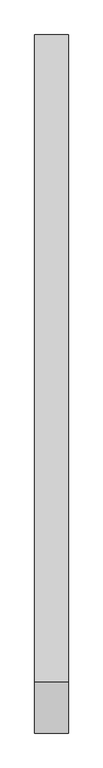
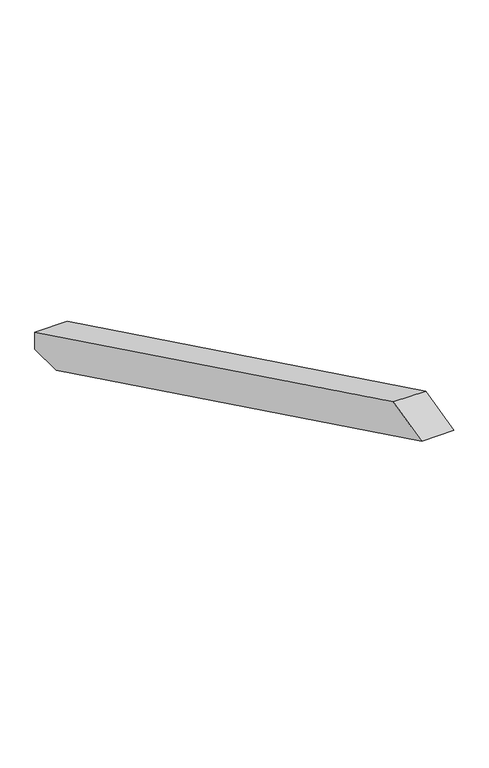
"""IFC4 building model written with IfcOpenShell, lengths in millimetres: proxy geometry, Modelos genéricos 115 : Modelos genéricos 16."""

from ifc_helpers import new_model, si_unit, frame, origin, place, context, project, spatial, polyline, outline, extrude, source, transform, mapped, element, save


def generic_models_a1e8e8a0(model_context):
    return source(origin(), model_context, "Body", "SweptSolid", [
        extrude(outline(polyline([(723.3927505, 3756.8218964), (1878.6238165, 3193.3780582), (1878.6238165, 3160.0), (1810.1886555, 3160.0), (632.8220197, 3734.240077), (723.3927505, 3756.8218964)])), frame((5573.4472467, 0.0, 0.0), z_axis=(1.0, 0.0, 0.0), x_axis=(0.0, 1.0, 0.0)), (0.0, 0.0, 1.0), 60.0),
    ])


if __name__ == "__main__":
    model = new_model("IFC4")
    model_context = context("Model", 3, world=origin())
    ifc_project = project(units=[si_unit("LENGTHUNIT", "METRE", prefix="MILLI")], contexts=[model_context])
    site = spatial("IfcSite", under=ifc_project)
    building = spatial("IfcBuilding", under=site)
    placement = place(None, origin())
    generic_models_shape = generic_models_a1e8e8a0(model_context)
    element("IfcBuildingElementProxy", 1, Name="Modelos genéricos 115 : Modelos genéricos 16", ObjectType="Modelos genéricos 115 : Modelos genéricos 16", at=placement, inside=building, context=model_context, shape_type="MappedRepresentation", body=[
        mapped(generic_models_shape, transform((0.0, 0.0, 0.0), x_axis=(1.0, 0.0, 0.0), y_axis=(0.0, 1.0, 0.0), z_axis=(0.0, 0.0, 1.0))),
    ])
    save(model, "model.ifc")
